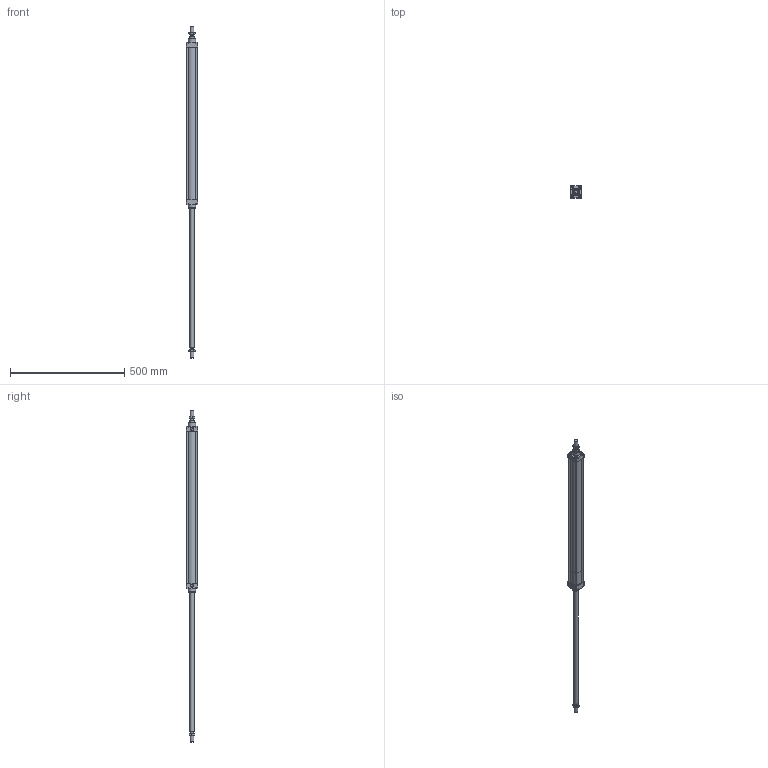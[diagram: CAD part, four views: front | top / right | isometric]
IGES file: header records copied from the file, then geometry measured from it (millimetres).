
Global section: file name: 1303_040_0600_02A; native system: Autodesk Inventor 2014; preprocessor: unknown; author: A. Manieri; date: 20161123.144320; units: millimetre
Bounding box: 52 x 52 x 1450 mm (x, y, z)
Volume: 845449 mm3; surface area: 352190.8 mm2
Topology: 10 solids, 10 shells, 189 faces, 471 edges, 314 vertices
Faces by surface type: bspline 189
